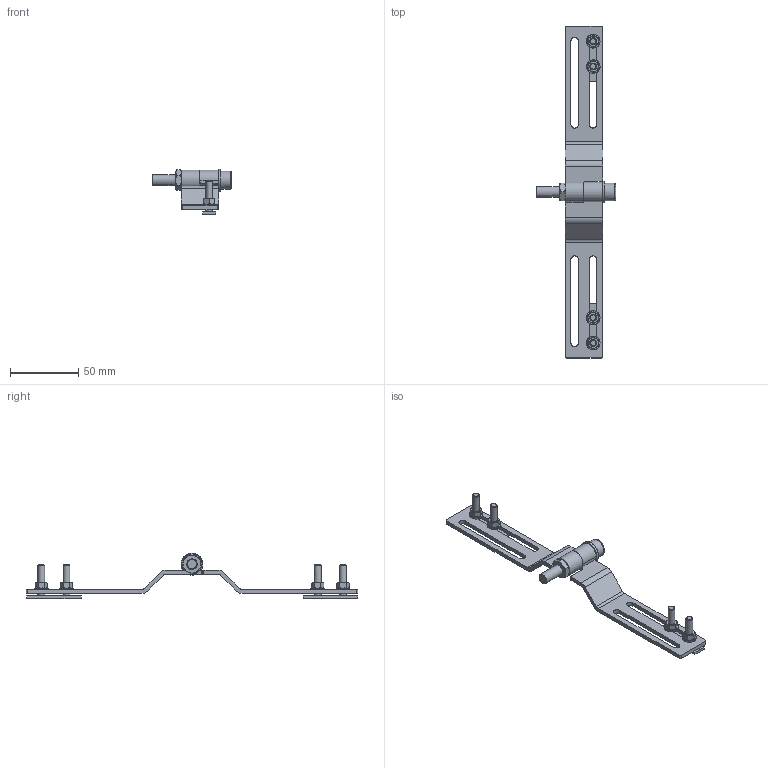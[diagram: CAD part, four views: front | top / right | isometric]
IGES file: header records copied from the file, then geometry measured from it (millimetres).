
Global section: file name: C:\Documents and Settings\LRossetti\Desktop\DIM e DSD per CD SG2_4b_4E\DSD-0488_straight.igs; native system: NX V7.5; preprocessor: SIEMENS PLM Software NX 7.5; date: 20111115.101240; units: millimetre
Bounding box: 58 x 243 x 33.26 mm (x, y, z)
Surface area: 40008.4 mm2 (no closed solid volume)
Topology: 0 solids, 0 shells, 264 faces, 1707 edges, 1675 vertices
Faces by surface type: bspline 264
